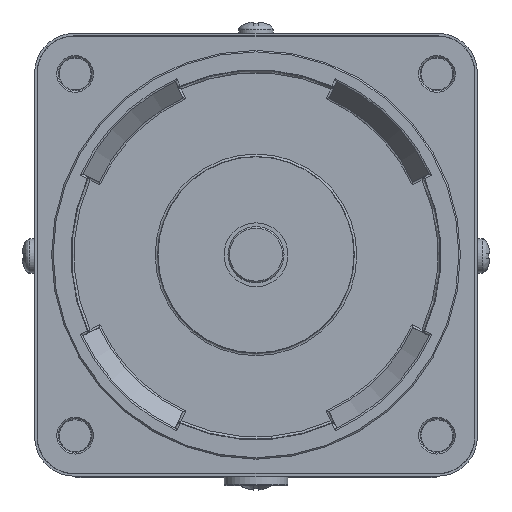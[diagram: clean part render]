
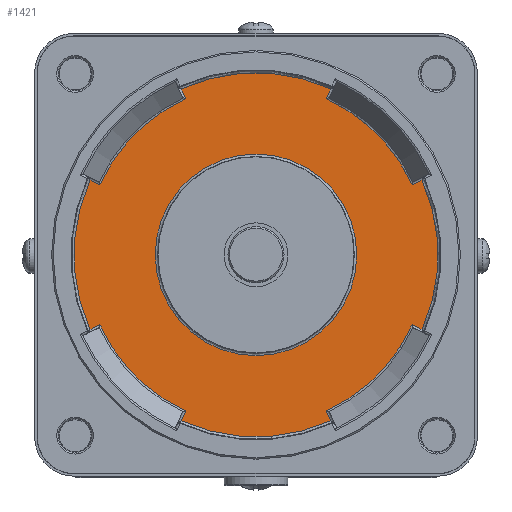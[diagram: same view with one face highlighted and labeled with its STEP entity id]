
A CAD part, top view. The second image highlights one B-rep face of the part: STEP entity #1421.
In plain terms, the highlighted planar face has unit normal (0, 0, 1).
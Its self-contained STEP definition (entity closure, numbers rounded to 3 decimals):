
#40 = CARTESIAN_POINT ( 'NONE',  ( 0., 0., -2.5 ) ) ;
#119 = VECTOR ( 'NONE', #8065, 1000. ) ;
#147 = CARTESIAN_POINT ( 'NONE',  ( 31.932, 14.338, -2.5 ) ) ;
#176 = EDGE_CURVE ( 'NONE', #7400, #2806, #10353, .T. ) ;
#286 = AXIS2_PLACEMENT_3D ( 'NONE', #4792, #9109, #13401 ) ;
#381 = DIRECTION ( 'NONE',  ( -0.423, -0.906, 0. ) ) ;
#412 = DIRECTION ( 'NONE',  ( 1., 0., 0. ) ) ;
#568 = EDGE_CURVE ( 'NONE', #2806, #4017, #4101, .T. ) ;
#652 = VERTEX_POINT ( 'NONE', #4026 ) ;
#694 = VERTEX_POINT ( 'NONE', #8608 ) ;
#732 = CARTESIAN_POINT ( 'NONE',  ( 31.725, -14.242, -2.5 ) ) ;
#741 = EDGE_LOOP ( 'NONE', ( #10347, #3717, #5939, #4981, #11720, #769, #5543, #5675, #3794, #2138, #1463, #10779, #6550, #8117, #7779, #2873 ) ) ;
#769 = ORIENTED_EDGE ( 'NONE', *, *, #8358, .T. ) ;
#819 = VERTEX_POINT ( 'NONE', #2446 ) ;
#959 = EDGE_CURVE ( 'NONE', #8033, #12342, #13469, .T. ) ;
#1010 = EDGE_CURVE ( 'NONE', #7793, #819, #13916, .T. ) ;
#1128 = AXIS2_PLACEMENT_3D ( 'NONE', #2829, #7200, #3819 ) ;
#1190 = VECTOR ( 'NONE', #4634, 1000. ) ;
#1270 = CIRCLE ( 'NONE', #13204, 34.775 ) ;
#1342 = CARTESIAN_POINT ( 'NONE',  ( 14.242, -31.725, -2.5 ) ) ;
#1421 = ADVANCED_FACE ( 'NONE', ( #11396, #1732 ), #11468, .T. ) ;
#1463 = ORIENTED_EDGE ( 'NONE', *, *, #10114, .T. ) ;
#1528 = AXIS2_PLACEMENT_3D ( 'NONE', #13672, #1820, #6132 ) ;
#1732 = FACE_BOUND ( 'NONE', #5725, .T. ) ;
#1800 = DIRECTION ( 'NONE',  ( 0., 0., 1. ) ) ;
#1820 = DIRECTION ( 'NONE',  ( 0., 0., 1. ) ) ;
#2037 = EDGE_CURVE ( 'NONE', #3930, #652, #11158, .T. ) ;
#2084 = CIRCLE ( 'NONE', #286, 34.775 ) ;
#2108 = DIRECTION ( 'NONE',  ( 0., 0., 1. ) ) ;
#2138 = ORIENTED_EDGE ( 'NONE', *, *, #568, .T. ) ;
#2293 = LINE ( 'NONE', #3216, #3668 ) ;
#2371 = LINE ( 'NONE', #8872, #1190 ) ;
#2388 = LINE ( 'NONE', #147, #7260 ) ;
#2446 = CARTESIAN_POINT ( 'NONE',  ( 14.242, 31.725, -2.5 ) ) ;
#2482 = CARTESIAN_POINT ( 'NONE',  ( 20.491, 0., -2.5 ) ) ;
#2491 = LINE ( 'NONE', #10269, #6019 ) ;
#2694 = LINE ( 'NONE', #7001, #119 ) ;
#2752 = CARTESIAN_POINT ( 'NONE',  ( -31.725, 14.242, -2.5 ) ) ;
#2784 = DIRECTION ( 'NONE',  ( -0.906, 0.423, 0. ) ) ;
#2806 = VERTEX_POINT ( 'NONE', #5329 ) ;
#2821 = EDGE_CURVE ( 'NONE', #12342, #13573, #2491, .T. ) ;
#2829 = CARTESIAN_POINT ( 'NONE',  ( 0., 0., -2.5 ) ) ;
#2843 = EDGE_CURVE ( 'NONE', #652, #7400, #1270, .T. ) ;
#2873 = ORIENTED_EDGE ( 'NONE', *, *, #5420, .T. ) ;
#2930 = DIRECTION ( 'NONE',  ( 0., 0., 1. ) ) ;
#3026 = CIRCLE ( 'NONE', #10241, 37.013 ) ;
#3085 = VERTEX_POINT ( 'NONE', #732 ) ;
#3216 = CARTESIAN_POINT ( 'NONE',  ( -0.453, 0.211, -2.5 ) ) ;
#3312 = DIRECTION ( 'NONE',  ( -0.906, -0.423, 0. ) ) ;
#3452 = EDGE_CURVE ( 'NONE', #13573, #4410, #5403, .T. ) ;
#3668 = VECTOR ( 'NONE', #7589, 1000. ) ;
#3717 = ORIENTED_EDGE ( 'NONE', *, *, #12982, .T. ) ;
#3794 = ORIENTED_EDGE ( 'NONE', *, *, #176, .T. ) ;
#3819 = DIRECTION ( 'NONE',  ( 1., 0., 0. ) ) ;
#3930 = VERTEX_POINT ( 'NONE', #4956 ) ;
#3932 = VECTOR ( 'NONE', #9496, 1000. ) ;
#4017 = VERTEX_POINT ( 'NONE', #5947 ) ;
#4026 = CARTESIAN_POINT ( 'NONE',  ( -14.242, 31.725, -2.5 ) ) ;
#4101 = CIRCLE ( 'NONE', #12661, 37.013 ) ;
#4131 = CARTESIAN_POINT ( 'NONE',  ( -0.211, -0.453, -2.5 ) ) ;
#4144 = CARTESIAN_POINT ( 'NONE',  ( 14.338, -31.932, -2.5 ) ) ;
#4179 = VERTEX_POINT ( 'NONE', #1342 ) ;
#4410 = VERTEX_POINT ( 'NONE', #11648 ) ;
#4505 = VECTOR ( 'NONE', #7982, 1000. ) ;
#4612 = DIRECTION ( 'NONE',  ( 1., 0., 0. ) ) ;
#4634 = DIRECTION ( 'NONE',  ( 0.906, -0.423, 0. ) ) ;
#4682 = CARTESIAN_POINT ( 'NONE',  ( 0., 0., -2.5 ) ) ;
#4792 = CARTESIAN_POINT ( 'NONE',  ( 0., 0., -2.5 ) ) ;
#4956 = CARTESIAN_POINT ( 'NONE',  ( -15.188, 33.753, -2.5 ) ) ;
#4981 = ORIENTED_EDGE ( 'NONE', *, *, #1010, .T. ) ;
#5329 = CARTESIAN_POINT ( 'NONE',  ( -33.753, 15.188, -2.5 ) ) ;
#5403 = CIRCLE ( 'NONE', #1128, 37.013 ) ;
#5420 = EDGE_CURVE ( 'NONE', #4179, #3085, #2084, .T. ) ;
#5543 = ORIENTED_EDGE ( 'NONE', *, *, #2037, .T. ) ;
#5594 = EDGE_CURVE ( 'NONE', #5889, #7793, #2388, .T. ) ;
#5675 = ORIENTED_EDGE ( 'NONE', *, *, #2843, .T. ) ;
#5713 = ORIENTED_EDGE ( 'NONE', *, *, #7566, .T. ) ;
#5725 = EDGE_LOOP ( 'NONE', ( #5713 ) ) ;
#5728 = VERTEX_POINT ( 'NONE', #2482 ) ;
#5760 = LINE ( 'NONE', #4144, #3932 ) ;
#5889 = VERTEX_POINT ( 'NONE', #6764 ) ;
#5918 = EDGE_CURVE ( 'NONE', #3085, #694, #2371, .T. ) ;
#5939 = ORIENTED_EDGE ( 'NONE', *, *, #5594, .T. ) ;
#5947 = CARTESIAN_POINT ( 'NONE',  ( -33.753, -15.188, -2.5 ) ) ;
#6019 = VECTOR ( 'NONE', #381, 1000. ) ;
#6038 = AXIS2_PLACEMENT_3D ( 'NONE', #40, #9841, #13860 ) ;
#6046 = CARTESIAN_POINT ( 'NONE',  ( 0., 0., -2.5 ) ) ;
#6132 = DIRECTION ( 'NONE',  ( 1., 0., 0. ) ) ;
#6179 = DIRECTION ( 'NONE',  ( 1., 0., 0. ) ) ;
#6275 = CARTESIAN_POINT ( 'NONE',  ( -15.188, -33.753, -2.5 ) ) ;
#6550 = ORIENTED_EDGE ( 'NONE', *, *, #2821, .T. ) ;
#6764 = CARTESIAN_POINT ( 'NONE',  ( 33.753, 15.188, -2.5 ) ) ;
#6789 = VECTOR ( 'NONE', #2784, 1000. ) ;
#7001 = CARTESIAN_POINT ( 'NONE',  ( -31.932, -14.338, -2.5 ) ) ;
#7111 = DIRECTION ( 'NONE',  ( 0., 0., 1. ) ) ;
#7115 = CARTESIAN_POINT ( 'NONE',  ( 31.725, 14.242, -2.5 ) ) ;
#7200 = DIRECTION ( 'NONE',  ( 0., 0., 1. ) ) ;
#7260 = VECTOR ( 'NONE', #3312, 1000. ) ;
#7400 = VERTEX_POINT ( 'NONE', #2752 ) ;
#7566 = EDGE_CURVE ( 'NONE', #5728, #5728, #13898, .T. ) ;
#7582 = VERTEX_POINT ( 'NONE', #8887 ) ;
#7589 = DIRECTION ( 'NONE',  ( 0.423, 0.906, 0. ) ) ;
#7779 = ORIENTED_EDGE ( 'NONE', *, *, #9374, .T. ) ;
#7793 = VERTEX_POINT ( 'NONE', #7115 ) ;
#7856 = DIRECTION ( 'NONE',  ( 0., 0., 1. ) ) ;
#7907 = CARTESIAN_POINT ( 'NONE',  ( -14.338, 31.932, -2.5 ) ) ;
#7982 = DIRECTION ( 'NONE',  ( 0.423, -0.906, 0. ) ) ;
#8033 = VERTEX_POINT ( 'NONE', #11063 ) ;
#8065 = DIRECTION ( 'NONE',  ( 0.906, 0.423, 0. ) ) ;
#8117 = ORIENTED_EDGE ( 'NONE', *, *, #3452, .T. ) ;
#8174 = CARTESIAN_POINT ( 'NONE',  ( 0., 0., -2.5 ) ) ;
#8358 = EDGE_CURVE ( 'NONE', #7582, #3930, #10563, .T. ) ;
#8608 = CARTESIAN_POINT ( 'NONE',  ( 33.753, -15.188, -2.5 ) ) ;
#8872 = CARTESIAN_POINT ( 'NONE',  ( 0.211, 0.453, -2.5 ) ) ;
#8887 = CARTESIAN_POINT ( 'NONE',  ( 15.188, 33.753, -2.5 ) ) ;
#9109 = DIRECTION ( 'NONE',  ( 0., 0., 1. ) ) ;
#9374 = EDGE_CURVE ( 'NONE', #4410, #4179, #5760, .T. ) ;
#9496 = DIRECTION ( 'NONE',  ( -0.423, 0.906, 0. ) ) ;
#9841 = DIRECTION ( 'NONE',  ( 0., 0., 1. ) ) ;
#10114 = EDGE_CURVE ( 'NONE', #4017, #8033, #2694, .T. ) ;
#10241 = AXIS2_PLACEMENT_3D ( 'NONE', #13650, #2930, #6179 ) ;
#10269 = CARTESIAN_POINT ( 'NONE',  ( 0.453, -0.211, -2.5 ) ) ;
#10347 = ORIENTED_EDGE ( 'NONE', *, *, #5918, .T. ) ;
#10353 = LINE ( 'NONE', #4131, #6789 ) ;
#10355 = DIRECTION ( 'NONE',  ( 1., 0., 0. ) ) ;
#10563 = CIRCLE ( 'NONE', #6038, 37.013 ) ;
#10566 = AXIS2_PLACEMENT_3D ( 'NONE', #8174, #7111, #412 ) ;
#10779 = ORIENTED_EDGE ( 'NONE', *, *, #959, .T. ) ;
#10944 = DIRECTION ( 'NONE',  ( 1., 0., 0. ) ) ;
#11063 = CARTESIAN_POINT ( 'NONE',  ( -31.725, -14.242, -2.5 ) ) ;
#11158 = LINE ( 'NONE', #7907, #4505 ) ;
#11396 = FACE_OUTER_BOUND ( 'NONE', #741, .T. ) ;
#11468 = PLANE ( 'NONE',  #13946 ) ;
#11613 = EDGE_CURVE ( 'NONE', #819, #7582, #2293, .T. ) ;
#11648 = CARTESIAN_POINT ( 'NONE',  ( 15.188, -33.753, -2.5 ) ) ;
#11720 = ORIENTED_EDGE ( 'NONE', *, *, #11613, .T. ) ;
#11981 = CARTESIAN_POINT ( 'NONE',  ( -14.242, -31.725, -2.5 ) ) ;
#11985 = DIRECTION ( 'NONE',  ( 0., 0., -1. ) ) ;
#12342 = VERTEX_POINT ( 'NONE', #11981 ) ;
#12661 = AXIS2_PLACEMENT_3D ( 'NONE', #13813, #2108, #12697 ) ;
#12697 = DIRECTION ( 'NONE',  ( 1., 0., 0. ) ) ;
#12790 = AXIS2_PLACEMENT_3D ( 'NONE', #13043, #11985, #10944 ) ;
#12982 = EDGE_CURVE ( 'NONE', #694, #5889, #3026, .T. ) ;
#13043 = CARTESIAN_POINT ( 'NONE',  ( 0., 0., -2.5 ) ) ;
#13204 = AXIS2_PLACEMENT_3D ( 'NONE', #4682, #7856, #4612 ) ;
#13401 = DIRECTION ( 'NONE',  ( 1., 0., 0. ) ) ;
#13469 = CIRCLE ( 'NONE', #10566, 34.775 ) ;
#13573 = VERTEX_POINT ( 'NONE', #6275 ) ;
#13650 = CARTESIAN_POINT ( 'NONE',  ( 0., 0., -2.5 ) ) ;
#13672 = CARTESIAN_POINT ( 'NONE',  ( 0., 0., -2.5 ) ) ;
#13813 = CARTESIAN_POINT ( 'NONE',  ( 0., 0., -2.5 ) ) ;
#13860 = DIRECTION ( 'NONE',  ( 1., 0., 0. ) ) ;
#13898 = CIRCLE ( 'NONE', #12790, 20.491 ) ;
#13916 = CIRCLE ( 'NONE', #1528, 34.775 ) ;
#13946 = AXIS2_PLACEMENT_3D ( 'NONE', #6046, #1800, #10355 ) ;
